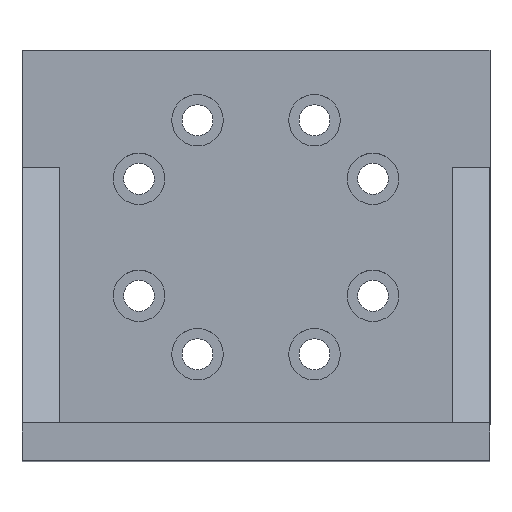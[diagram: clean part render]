
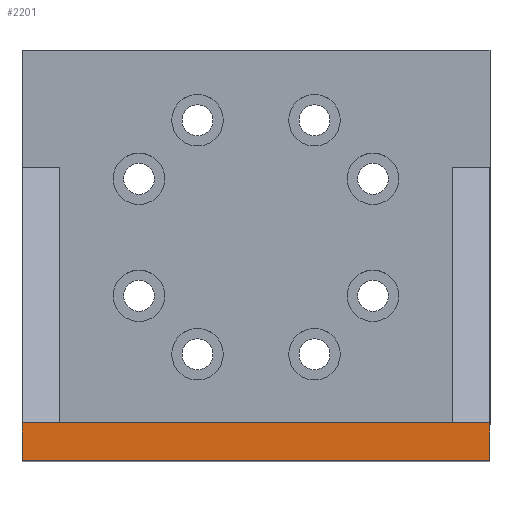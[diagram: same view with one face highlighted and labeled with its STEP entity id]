
A CAD part, top view. The second image highlights one B-rep face of the part: STEP entity #2201.
In plain terms, the highlighted planar face has unit normal (0, 0, 1) as drawn and (0, -1, 0) by its records, which use the part's own axes.
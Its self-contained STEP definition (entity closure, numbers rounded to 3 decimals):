
#57 = VECTOR ( 'NONE', #3187, 1000. ) ;
#168 = CARTESIAN_POINT ( 'NONE',  ( 50., -198., 8. ) ) ;
#444 = DIRECTION ( 'NONE',  ( 0., 0., -1. ) ) ;
#724 = VERTEX_POINT ( 'NONE', #4729 ) ;
#932 = ORIENTED_EDGE ( 'NONE', *, *, #1471, .T. ) ;
#950 = EDGE_CURVE ( 'NONE', #724, #1321, #5283, .T. ) ;
#1321 = VERTEX_POINT ( 'NONE', #4357 ) ;
#1346 = DIRECTION ( 'NONE',  ( 1., 0., 0. ) ) ;
#1471 = EDGE_CURVE ( 'NONE', #1994, #4552, #4586, .T. ) ;
#1596 = CARTESIAN_POINT ( 'NONE',  ( 50., -198., 0. ) ) ;
#1611 = AXIS2_PLACEMENT_3D ( 'NONE', #2962, #1669, #2160 ) ;
#1669 = DIRECTION ( 'NONE',  ( 0., 1., 0. ) ) ;
#1874 = EDGE_LOOP ( 'NONE', ( #932, #2014, #2410, #4366 ) ) ;
#1935 = EDGE_CURVE ( 'NONE', #1321, #4552, #4204, .T. ) ;
#1994 = VERTEX_POINT ( 'NONE', #4985 ) ;
#2014 = ORIENTED_EDGE ( 'NONE', *, *, #1935, .F. ) ;
#2148 = CARTESIAN_POINT ( 'NONE',  ( 50., -198., 8. ) ) ;
#2160 = DIRECTION ( 'NONE',  ( 0., 0., 1. ) ) ;
#2201 = ADVANCED_FACE ( 'NONE', ( #2498 ), #3860, .F. ) ;
#2310 = VECTOR ( 'NONE', #444, 1000. ) ;
#2410 = ORIENTED_EDGE ( 'NONE', *, *, #950, .F. ) ;
#2442 = DIRECTION ( 'NONE',  ( 0., 0., -1. ) ) ;
#2498 = FACE_OUTER_BOUND ( 'NONE', #1874, .T. ) ;
#2619 = LINE ( 'NONE', #3458, #2310 ) ;
#2712 = VECTOR ( 'NONE', #1346, 1000. ) ;
#2962 = CARTESIAN_POINT ( 'NONE',  ( 50., -198., 8. ) ) ;
#3187 = DIRECTION ( 'NONE',  ( 1., 0., 0. ) ) ;
#3458 = CARTESIAN_POINT ( 'NONE',  ( -50., -198., 8. ) ) ;
#3625 = CARTESIAN_POINT ( 'NONE',  ( 50., -198., 0. ) ) ;
#3860 = PLANE ( 'NONE',  #1611 ) ;
#4177 = EDGE_CURVE ( 'NONE', #724, #1994, #2619, .T. ) ;
#4204 = LINE ( 'NONE', #168, #5026 ) ;
#4357 = CARTESIAN_POINT ( 'NONE',  ( 50., -198., 8. ) ) ;
#4366 = ORIENTED_EDGE ( 'NONE', *, *, #4177, .T. ) ;
#4552 = VERTEX_POINT ( 'NONE', #1596 ) ;
#4586 = LINE ( 'NONE', #3625, #57 ) ;
#4729 = CARTESIAN_POINT ( 'NONE',  ( -50., -198., 8. ) ) ;
#4985 = CARTESIAN_POINT ( 'NONE',  ( -50., -198., 0. ) ) ;
#5026 = VECTOR ( 'NONE', #2442, 1000. ) ;
#5283 = LINE ( 'NONE', #2148, #2712 ) ;
